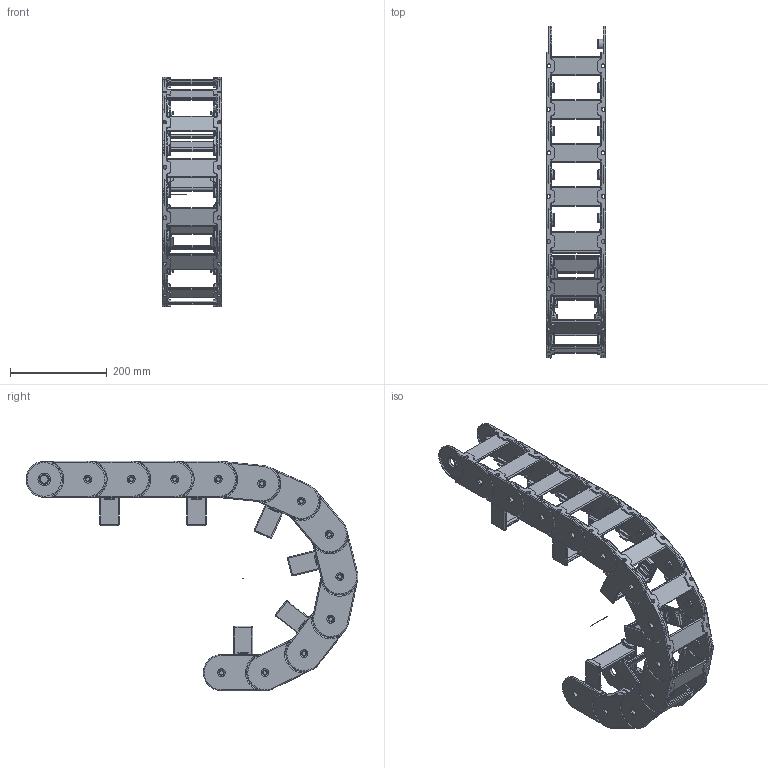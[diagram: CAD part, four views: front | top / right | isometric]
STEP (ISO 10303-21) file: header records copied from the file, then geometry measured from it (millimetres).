
FILE_DESCRIPTION((''),'2;1');
FILE_NAME('E:\Uebbing\PARAMETERKETTEN\PKK\PKK 313\PKK 313 vereinfacht\PKK 313 vereinfacht.stp','2017-11-13T14:22:28',('Nutzer'),(''),'Autodesk Inventor 10','Autodesk Inventor 10','');
FILE_SCHEMA(('AUTOMOTIVE_DESIGN { 1 0 10303 214 1 1 1 1 }'));
Length unit declared in the file: millimetre
Products named in the file (4): PKK 313 vereinfacht; PKK 313 Glied vereinfacht; Achse; PKK 313 Glied ein Steg vereinfacht
Assembly tree (13 placements, depth 2):
  PKK 313 vereinfacht
    PKK 313 Glied vereinfacht  x6
    Achse
    PKK 313 Glied ein Steg vereinfacht  x6
Bounding box: 124 x 686.48 x 475 mm (x, y, z)
Volume: 2140461.8 mm3; surface area: 982597.9 mm2
Topology: 13 solids, 13 shells, 3735 faces, 9718 edges, 5925 vertices
Faces by surface type: plane 1670, cylinder 1261, torus 384, bspline 324, sphere 96
Full cylindrical faces by diameter (mm): 1 x1, 8 x24, 12 x24, 20 x24, 20.2 x24, 26 x48, 70 x48
Entity records: 23653 total; most frequent: CARTESIAN_POINT 8344, DIRECTION 3284, ORIENTED_EDGE 3090, EDGE_CURVE 1545, AXIS2_PLACEMENT_3D 1223, VERTEX_POINT 985, VECTOR 838, LINE 838
